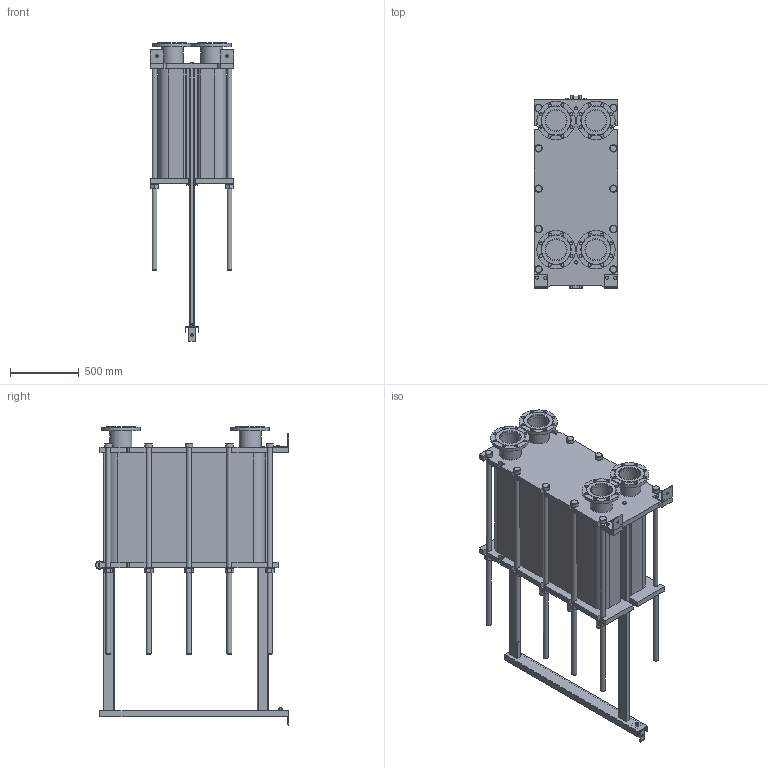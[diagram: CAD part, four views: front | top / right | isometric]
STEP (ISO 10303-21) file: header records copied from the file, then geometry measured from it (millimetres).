
FILE_DESCRIPTION(/* description */ (''),/* implementation_level */ '2;1');
FILE_NAME(/* name */ 'C:\Users\zhuro\Desktop\ENCO\TO\ЭН-041\ЭН-0,5-041-231-1.stp',/* time_stamp */ '2022-06-06T11:07:56+03:00',/* author */ ('zhuro'),/* organization */ (''),/* preprocessor_version */ 'ST-DEVELOPER v18.1',/* originating_system */ 'Autodesk Inventor 2022',/* authorisation */ '');
FILE_SCHEMA (('AUTOMOTIVE_DESIGN { 1 0 10303 214 3 1 1 }'));
Length unit declared in the file: millimetre
Products named in the file (1): ЭН-0,5-041-231-1
Bounding box: 610 x 1406.5 x 2172.5 mm (x, y, z)
Volume: 537913246.4 mm3; surface area: 11912953.7 mm2
Topology: 52 solids, 52 shells, 711 faces, 1696 edges, 1094 vertices
Faces by surface type: plane 487, cylinder 177, cone 41, torus 6
Full cylindrical faces by diameter (mm): 8 x4, 10 x2, 16 x8, 18 x3, 22 x32, 36 x24, 50 x1, 54 x10, 60 x12, 151 x4, 161 x8, 280 x4
Entity records: 22667 total; most frequent: CARTESIAN_POINT 5230, DIRECTION 3644, ORIENTED_EDGE 3392, EDGE_CURVE 1696, AXIS2_PLACEMENT_3D 1272, LINE 1100, VECTOR 1100, VERTEX_POINT 1094
